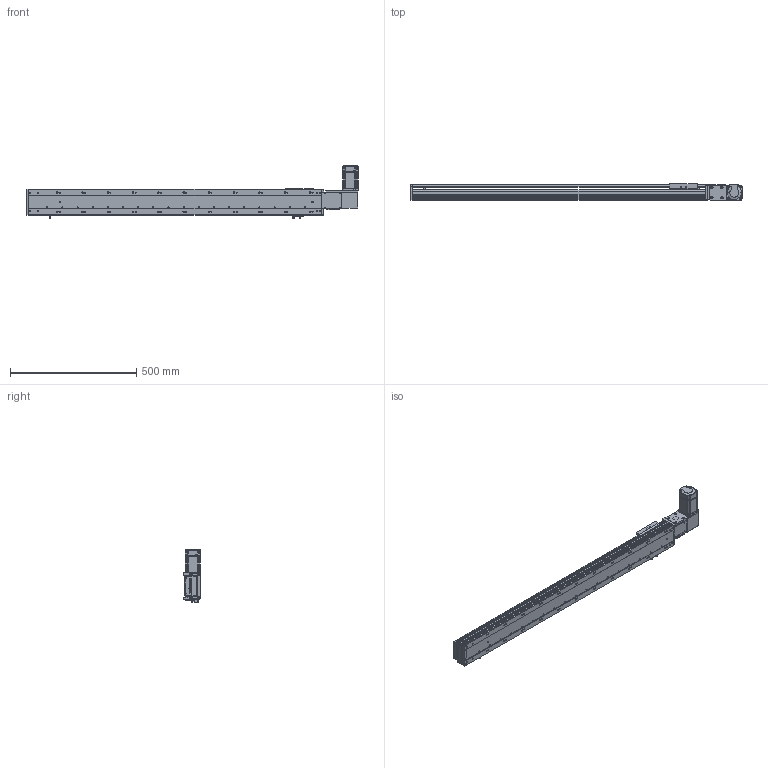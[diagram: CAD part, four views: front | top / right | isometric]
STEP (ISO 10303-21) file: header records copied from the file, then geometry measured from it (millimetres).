
FILE_DESCRIPTION (( 'STEP AP203' ), '1' );
FILE_NAME ('RY100-T-300-RK.SLDASM_950.step', '2024-04-25T08:22:30', ( '盈信电脑' ), ( '东莞市道滘镇水果街19号' ), 'SwSTEP 2.0', 'SolidWorks 2016', '' );
FILE_SCHEMA (( 'CONFIG_CONTROL_DESIGN' ));
Length unit declared in the file: millimetre
Products named in the file (15): RY100-T肮祭謫翋盓傅釱; RY100-T翋肮祭謫裔啣2; RY100-T-300-RK.SLDASM_950; 滅袉蝶18-10; RY100-T左右折电机安装板; RY100-T肮祭謫臏賑輸; RY100-T-300-RK倰第奻裔_950; 侂狟200W萇儂; RY100俋离覜茼え; 1; RY100-T粣創揤踡裔; RY100-T-300-RK倰第菁釱_950; RY100綴裔啣; 覜茼ん672; RY80-T肮祭謫俋欶
Assembly tree (18 placements, depth 3):
  RY100-T-300-RK.SLDASM_950
    RY100-T-300-RK倰第菁釱_950
    RY100-T-300-RK倰第奻裔_950
    RY100-T肮祭謫臏賑輸
    RY100綴裔啣
    覜茼ん672  x3
    RY100俋离覜茼え
    RY100-T肮祭謫翋盓傅釱
    RY100-T左右折电机安装板
    侂狟200W萇儂
      1
    RY100-T粣創揤踡裔
    滅袉蝶18-10  x2
    RY100-T翋肮祭謫裔啣2  x2
    RY80-T肮祭謫俋欶
Bounding box: 1314 x 66 x 209.7 mm (x, y, z)
Volume: 2540626 mm3; surface area: 1045756.3 mm2
Topology: 17 solids, 17 shells, 2269 faces, 6353 edges, 4133 vertices
Faces by surface type: plane 1205, cylinder 847, cone 139, bspline 78
Entity records: 73453 total; most frequent: CARTESIAN_POINT 18093, ORIENTED_EDGE 11442, DIRECTION 10837, EDGE_CURVE 5721, VERTEX_POINT 3769, LINE 3633, VECTOR 3633, AXIS2_PLACEMENT_3D 3602
